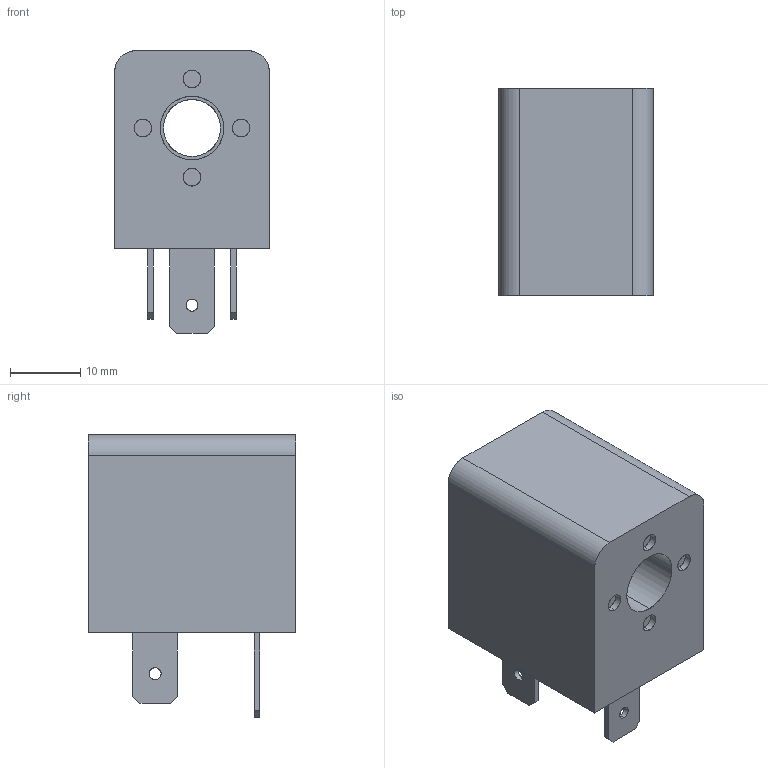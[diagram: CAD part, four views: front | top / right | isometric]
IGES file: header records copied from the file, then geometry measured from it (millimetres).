
Start section: SolidWorks IGES file using analytic representation for surfaces
Global section: file name: C:\Users\cad06\Desktop\Nuova cartella\SOL01\SOL01110A2000.IGS; native system: SolidWorks 2016; preprocessor: SolidWorks 2016; author: cad06; date: 160707.154932; units: millimetre
Bounding box: 22 x 29.5 x 40.2 mm (x, y, z)
Surface area: 5411.3 mm2 (no closed solid volume)
Topology: 0 solids, 0 shells, 63 faces, 860 edges, 858 vertices
Faces by surface type: bspline 33, revolution 30
